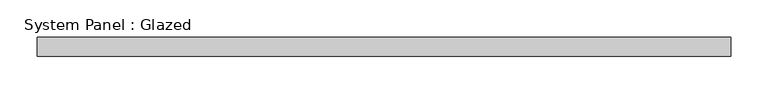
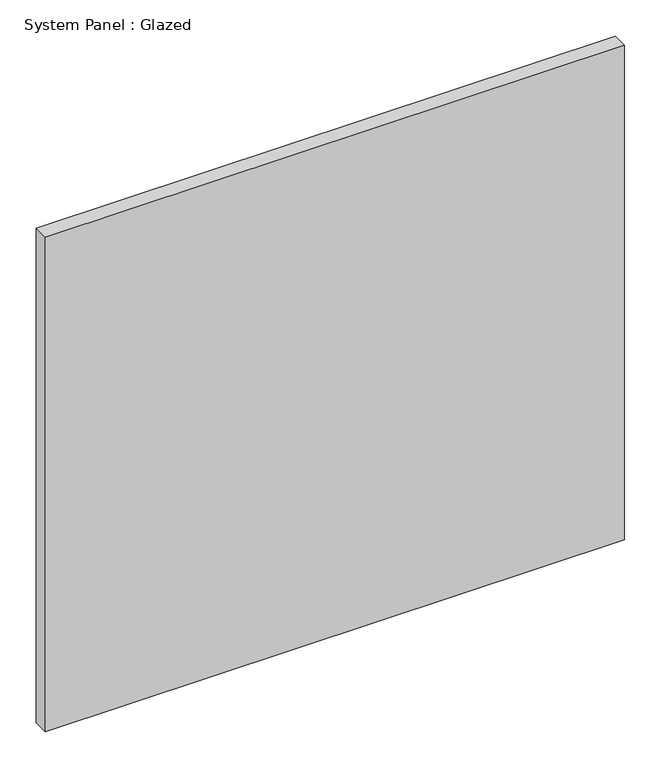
"""IFC4 building model written with IfcOpenShell, lengths in millimetres: plate geometry, System Panel : Glazed."""

from ifc_helpers import new_model, si_unit, origin, origin_with_axes, place, context, project, spatial, polyline, outline, extrude, source, transform, mapped, element, save


def system_panel_glazed_f8e217f1(model_context):
    return source(origin(), model_context, "Body", "SweptSolid", [
        extrude(outline(polyline([(462.5, 24.5), (-462.5, 24.5), (-462.5, 49.5), (462.5, 49.5), (462.5, 24.5)])), origin_with_axes(), (0.0, 0.0, 1.0), 834.5604964),
    ])


if __name__ == "__main__":
    model = new_model("IFC4")
    model_context = context("Model", 3, world=origin())
    ifc_project = project(units=[si_unit("LENGTHUNIT", "METRE", prefix="MILLI")], contexts=[model_context])
    site = spatial("IfcSite", under=ifc_project)
    building = spatial("IfcBuilding", under=site)
    placement = place(None, origin())
    system_panel_glazed_shape = system_panel_glazed_f8e217f1(model_context)
    element("IfcPlate", 1, ObjectType="System Panel : Glazed", at=placement, inside=building, context=model_context, shape_type="MappedRepresentation", body=[
        mapped(system_panel_glazed_shape, transform((0.0, 0.0, 0.0), x_axis=(1.0, 0.0, 0.0), y_axis=(0.0, 1.0, 0.0), z_axis=(0.0, 0.0, 1.0))),
    ])
    save(model, "model.ifc")
